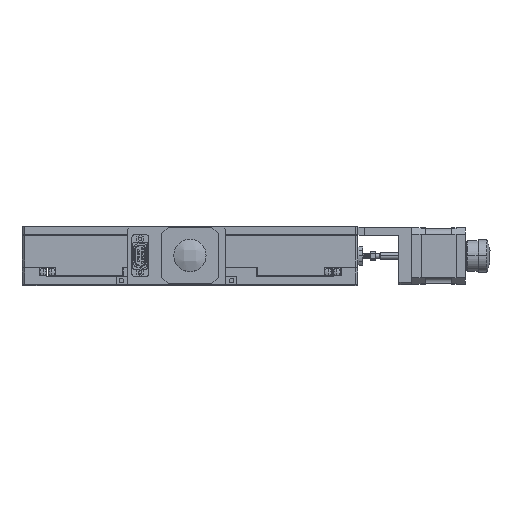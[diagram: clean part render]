
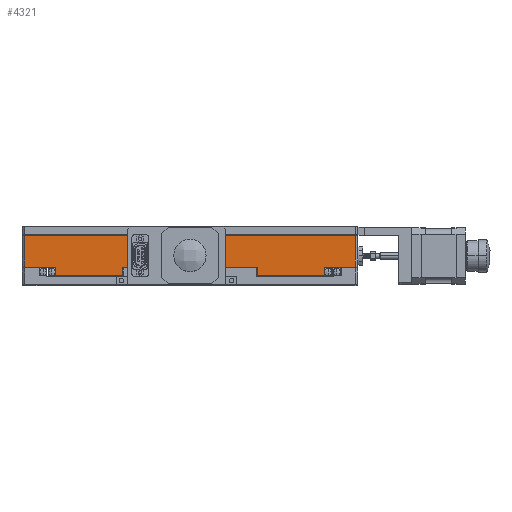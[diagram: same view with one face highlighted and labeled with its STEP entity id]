
A CAD part, top view. The second image highlights one B-rep face of the part: STEP entity #4321.
In plain terms, the highlighted planar face has unit normal (0, 0, 1).
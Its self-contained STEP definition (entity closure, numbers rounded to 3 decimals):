
#523 = ORIENTED_EDGE ( 'NONE', *, *, #12589, .F. ) ;
#1649 = EDGE_CURVE ( 'NONE', #34938, #42780, #40543, .T. ) ;
#1711 = CARTESIAN_POINT ( 'NONE',  ( -50., -8.5, 125. ) ) ;
#1730 = ORIENTED_EDGE ( 'NONE', *, *, #11868, .F. ) ;
#2151 = DIRECTION ( 'NONE',  ( -1., 0., 0. ) ) ;
#2798 = LINE ( 'NONE', #35521, #38392 ) ;
#2811 = VERTEX_POINT ( 'NONE', #22926 ) ;
#2823 = VERTEX_POINT ( 'NONE', #14023 ) ;
#2930 = DIRECTION ( 'NONE',  ( 1., 0., 0. ) ) ;
#2978 = ORIENTED_EDGE ( 'NONE', *, *, #22184, .F. ) ;
#3214 = CARTESIAN_POINT ( 'NONE',  ( -100., -9., 125. ) ) ;
#3536 = DIRECTION ( 'NONE',  ( 1., 0., 0. ) ) ;
#3666 = DIRECTION ( 'NONE',  ( 0., 1., 0. ) ) ;
#3892 = DIRECTION ( 'NONE',  ( 0., -1., 0. ) ) ;
#4321 = ADVANCED_FACE ( 'NONE', ( #37848, #28653 ), #6893, .F. ) ;
#4550 = EDGE_CURVE ( 'NONE', #31592, #34938, #2798, .T. ) ;
#4801 = ORIENTED_EDGE ( 'NONE', *, *, #5079, .T. ) ;
#4847 = ORIENTED_EDGE ( 'NONE', *, *, #27807, .F. ) ;
#4900 = LINE ( 'NONE', #20198, #14073 ) ;
#5079 = EDGE_CURVE ( 'NONE', #33909, #31592, #21575, .T. ) ;
#5471 = ORIENTED_EDGE ( 'NONE', *, *, #7927, .F. ) ;
#5685 = LINE ( 'NONE', #42720, #27188 ) ;
#6380 = CARTESIAN_POINT ( 'NONE',  ( -123., -8.5, 125. ) ) ;
#6410 = ORIENTED_EDGE ( 'NONE', *, *, #37735, .F. ) ;
#6893 = PLANE ( 'NONE',  #18741 ) ;
#7077 = CARTESIAN_POINT ( 'NONE',  ( -6., 0., 125. ) ) ;
#7111 = VECTOR ( 'NONE', #17310, 1000. ) ;
#7927 = EDGE_CURVE ( 'NONE', #8497, #33798, #21902, .T. ) ;
#8497 = VERTEX_POINT ( 'NONE', #38284 ) ;
#8763 = LINE ( 'NONE', #13181, #25411 ) ;
#8857 = EDGE_CURVE ( 'NONE', #9888, #42957, #41247, .T. ) ;
#8875 = CARTESIAN_POINT ( 'NONE',  ( 105.5, -9., 125. ) ) ;
#9035 = EDGE_CURVE ( 'NONE', #2823, #2811, #33725, .T. ) ;
#9223 = CARTESIAN_POINT ( 'NONE',  ( 0., -15., 125. ) ) ;
#9888 = VERTEX_POINT ( 'NONE', #32846 ) ;
#11868 = EDGE_CURVE ( 'NONE', #30929, #35097, #4900, .T. ) ;
#12589 = EDGE_CURVE ( 'NONE', #38547, #27569, #22039, .T. ) ;
#12790 = LINE ( 'NONE', #9223, #36519 ) ;
#13083 = VECTOR ( 'NONE', #3666, 1000. ) ;
#13181 = CARTESIAN_POINT ( 'NONE',  ( -50., -8.5, 125. ) ) ;
#13270 = LINE ( 'NONE', #30018, #17570 ) ;
#13718 = CARTESIAN_POINT ( 'NONE',  ( 0., 0., 125. ) ) ;
#14023 = CARTESIAN_POINT ( 'NONE',  ( 105.5, -8.5, 125. ) ) ;
#14073 = VECTOR ( 'NONE', #23636, 1000. ) ;
#14178 = DIRECTION ( 'NONE',  ( 1., 0., 0. ) ) ;
#14373 = VECTOR ( 'NONE', #14178, 1000. ) ;
#15334 = AXIS2_PLACEMENT_3D ( 'NONE', #24602, #17680, #3536 ) ;
#15743 = CARTESIAN_POINT ( 'NONE',  ( -105.5, -8.5, 125. ) ) ;
#16207 = ORIENTED_EDGE ( 'NONE', *, *, #4550, .T. ) ;
#16497 = CARTESIAN_POINT ( 'NONE',  ( 50., -15., 125. ) ) ;
#16590 = EDGE_CURVE ( 'NONE', #2811, #33909, #39155, .T. ) ;
#16756 = VECTOR ( 'NONE', #20827, 1000. ) ;
#16856 = CARTESIAN_POINT ( 'NONE',  ( 100., -15., 125. ) ) ;
#17194 = EDGE_CURVE ( 'NONE', #42957, #18145, #5685, .T. ) ;
#17284 = DIRECTION ( 'NONE',  ( -1., 0., 0. ) ) ;
#17310 = DIRECTION ( 'NONE',  ( 0., 1., 0. ) ) ;
#17570 = VECTOR ( 'NONE', #39862, 1000. ) ;
#17680 = DIRECTION ( 'NONE',  ( 0., 0., 1. ) ) ;
#18044 = CARTESIAN_POINT ( 'NONE',  ( 125., -8.5, 125. ) ) ;
#18145 = VERTEX_POINT ( 'NONE', #18830 ) ;
#18741 = AXIS2_PLACEMENT_3D ( 'NONE', #13718, #20583, #17284 ) ;
#18830 = CARTESIAN_POINT ( 'NONE',  ( -105.5, -9., 125. ) ) ;
#19188 = EDGE_CURVE ( 'NONE', #37129, #21797, #20561, .T. ) ;
#19291 = ORIENTED_EDGE ( 'NONE', *, *, #9035, .T. ) ;
#19511 = ORIENTED_EDGE ( 'NONE', *, *, #33342, .F. ) ;
#19705 = EDGE_CURVE ( 'NONE', #18145, #42780, #25405, .T. ) ;
#20198 = CARTESIAN_POINT ( 'NONE',  ( -50., 0., 125. ) ) ;
#20369 = ORIENTED_EDGE ( 'NONE', *, *, #16590, .T. ) ;
#20561 = LINE ( 'NONE', #34242, #13083 ) ;
#20583 = DIRECTION ( 'NONE',  ( 0., 0., -1. ) ) ;
#20827 = DIRECTION ( 'NONE',  ( -1., 0., 0. ) ) ;
#20949 = CARTESIAN_POINT ( 'NONE',  ( 0., 0., 125. ) ) ;
#20965 = CARTESIAN_POINT ( 'NONE',  ( -125., 15., 125. ) ) ;
#21153 = CIRCLE ( 'NONE', #30969, 6. ) ;
#21575 = LINE ( 'NONE', #20965, #16756 ) ;
#21678 = VECTOR ( 'NONE', #22670, 1000. ) ;
#21797 = VERTEX_POINT ( 'NONE', #42900 ) ;
#21902 = CIRCLE ( 'NONE', #15334, 6. ) ;
#22039 = LINE ( 'NONE', #38081, #28527 ) ;
#22184 = EDGE_CURVE ( 'NONE', #2823, #34033, #42643, .T. ) ;
#22670 = DIRECTION ( 'NONE',  ( 1., 0., 0. ) ) ;
#22926 = CARTESIAN_POINT ( 'NONE',  ( 123., -8.5, 125. ) ) ;
#23570 = EDGE_LOOP ( 'NONE', ( #20369, #4801, #16207, #33416, #28610, #40791, #33390, #4847, #1730, #42084, #40662, #6410, #523, #40713, #2978, #19291 ) ) ;
#23636 = DIRECTION ( 'NONE',  ( 0., -1., 0. ) ) ;
#24429 = CARTESIAN_POINT ( 'NONE',  ( -50., -15., 125. ) ) ;
#24602 = CARTESIAN_POINT ( 'NONE',  ( 0., 0., 125. ) ) ;
#25110 = DIRECTION ( 'NONE',  ( 0., -1., 0. ) ) ;
#25405 = LINE ( 'NONE', #31115, #7111 ) ;
#25411 = VECTOR ( 'NONE', #2930, 1000. ) ;
#25551 = CARTESIAN_POINT ( 'NONE',  ( 100., -9., 125. ) ) ;
#27188 = VECTOR ( 'NONE', #32451, 1000. ) ;
#27569 = VERTEX_POINT ( 'NONE', #16856 ) ;
#27707 = DIRECTION ( 'NONE',  ( 0., 0., 1. ) ) ;
#27807 = EDGE_CURVE ( 'NONE', #35097, #9888, #43333, .T. ) ;
#28527 = VECTOR ( 'NONE', #34303, 1000. ) ;
#28610 = ORIENTED_EDGE ( 'NONE', *, *, #19705, .F. ) ;
#28653 = FACE_BOUND ( 'NONE', #32513, .T. ) ;
#29922 = VECTOR ( 'NONE', #39481, 1000. ) ;
#30018 = CARTESIAN_POINT ( 'NONE',  ( 0., -9., 125. ) ) ;
#30211 = VECTOR ( 'NONE', #25110, 1000. ) ;
#30437 = EDGE_CURVE ( 'NONE', #34033, #38547, #13270, .T. ) ;
#30929 = VERTEX_POINT ( 'NONE', #1711 ) ;
#30969 = AXIS2_PLACEMENT_3D ( 'NONE', #20949, #27707, #34695 ) ;
#31115 = CARTESIAN_POINT ( 'NONE',  ( -105.5, 0., 125. ) ) ;
#31592 = VERTEX_POINT ( 'NONE', #37652 ) ;
#32451 = DIRECTION ( 'NONE',  ( -1., 0., 0. ) ) ;
#32513 = EDGE_LOOP ( 'NONE', ( #5471, #19511 ) ) ;
#32846 = CARTESIAN_POINT ( 'NONE',  ( -100., -15., 125. ) ) ;
#33142 = EDGE_CURVE ( 'NONE', #30929, #21797, #8763, .T. ) ;
#33342 = EDGE_CURVE ( 'NONE', #33798, #8497, #21153, .T. ) ;
#33390 = ORIENTED_EDGE ( 'NONE', *, *, #8857, .F. ) ;
#33416 = ORIENTED_EDGE ( 'NONE', *, *, #1649, .T. ) ;
#33725 = LINE ( 'NONE', #18044, #14373 ) ;
#33798 = VERTEX_POINT ( 'NONE', #7077 ) ;
#33860 = DIRECTION ( 'NONE',  ( 0., 1., 0. ) ) ;
#33909 = VERTEX_POINT ( 'NONE', #35706 ) ;
#34033 = VERTEX_POINT ( 'NONE', #8875 ) ;
#34242 = CARTESIAN_POINT ( 'NONE',  ( 50., 0., 125. ) ) ;
#34261 = VECTOR ( 'NONE', #33860, 1000. ) ;
#34303 = DIRECTION ( 'NONE',  ( 0., -1., 0. ) ) ;
#34695 = DIRECTION ( 'NONE',  ( 1., 0., 0. ) ) ;
#34938 = VERTEX_POINT ( 'NONE', #6380 ) ;
#35097 = VERTEX_POINT ( 'NONE', #24429 ) ;
#35413 = CARTESIAN_POINT ( 'NONE',  ( 123., 0., 125. ) ) ;
#35521 = CARTESIAN_POINT ( 'NONE',  ( -123., 0., 125. ) ) ;
#35706 = CARTESIAN_POINT ( 'NONE',  ( 123., 15., 125. ) ) ;
#35865 = VECTOR ( 'NONE', #36094, 1000. ) ;
#36094 = DIRECTION ( 'NONE',  ( -1., 0., 0. ) ) ;
#36519 = VECTOR ( 'NONE', #2151, 1000. ) ;
#37129 = VERTEX_POINT ( 'NONE', #16497 ) ;
#37652 = CARTESIAN_POINT ( 'NONE',  ( -123., 15., 125. ) ) ;
#37735 = EDGE_CURVE ( 'NONE', #27569, #37129, #12790, .T. ) ;
#37848 = FACE_OUTER_BOUND ( 'NONE', #23570, .T. ) ;
#38081 = CARTESIAN_POINT ( 'NONE',  ( 100., 0., 125. ) ) ;
#38284 = CARTESIAN_POINT ( 'NONE',  ( 6., 0., 125. ) ) ;
#38392 = VECTOR ( 'NONE', #3892, 1000. ) ;
#38547 = VERTEX_POINT ( 'NONE', #25551 ) ;
#39155 = LINE ( 'NONE', #35413, #29922 ) ;
#39481 = DIRECTION ( 'NONE',  ( 0., 1., 0. ) ) ;
#39862 = DIRECTION ( 'NONE',  ( -1., 0., 0. ) ) ;
#39878 = CARTESIAN_POINT ( 'NONE',  ( -125., -8.5, 125. ) ) ;
#40543 = LINE ( 'NONE', #39878, #21678 ) ;
#40662 = ORIENTED_EDGE ( 'NONE', *, *, #19188, .F. ) ;
#40713 = ORIENTED_EDGE ( 'NONE', *, *, #30437, .F. ) ;
#40791 = ORIENTED_EDGE ( 'NONE', *, *, #17194, .F. ) ;
#41247 = LINE ( 'NONE', #44101, #34261 ) ;
#42084 = ORIENTED_EDGE ( 'NONE', *, *, #33142, .T. ) ;
#42152 = CARTESIAN_POINT ( 'NONE',  ( 105.5, 0., 125. ) ) ;
#42391 = CARTESIAN_POINT ( 'NONE',  ( 0., -15., 125. ) ) ;
#42643 = LINE ( 'NONE', #42152, #30211 ) ;
#42720 = CARTESIAN_POINT ( 'NONE',  ( 0., -9., 125. ) ) ;
#42780 = VERTEX_POINT ( 'NONE', #15743 ) ;
#42900 = CARTESIAN_POINT ( 'NONE',  ( 50., -8.5, 125. ) ) ;
#42957 = VERTEX_POINT ( 'NONE', #3214 ) ;
#43333 = LINE ( 'NONE', #42391, #35865 ) ;
#44101 = CARTESIAN_POINT ( 'NONE',  ( -100., 0., 125. ) ) ;
